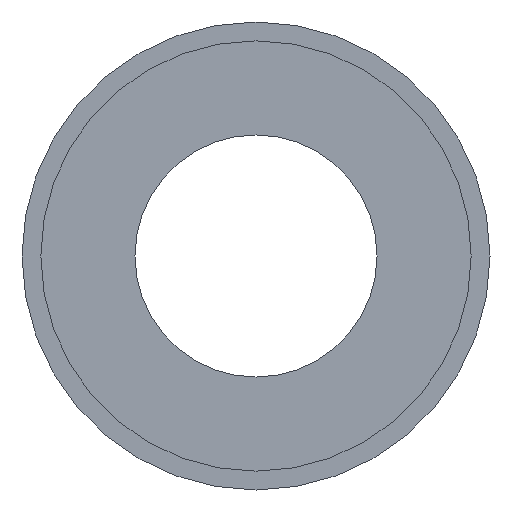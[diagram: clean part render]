
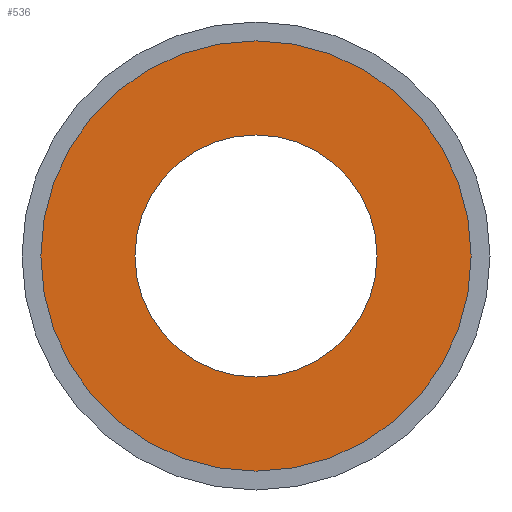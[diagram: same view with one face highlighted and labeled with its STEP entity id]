
A CAD part, front view. The second image highlights one B-rep face of the part: STEP entity #536.
In plain terms, the highlighted planar face has unit normal (0, -1, 0).
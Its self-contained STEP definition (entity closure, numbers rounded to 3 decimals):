
#65 = AXIS2_PLACEMENT_3D ( 'NONE', #1028, #2048, #3046 ) ;
#93 = CARTESIAN_POINT ( 'NONE',  ( 0., -16.5, -22.5 ) ) ;
#256 = CIRCLE ( 'NONE', #1644, 22.5 ) ;
#272 = CARTESIAN_POINT ( 'NONE',  ( 0., -16.5, 22.5 ) ) ;
#277 = ORIENTED_EDGE ( 'NONE', *, *, #2144, .T. ) ;
#455 = AXIS2_PLACEMENT_3D ( 'NONE', #2186, #1939, #938 ) ;
#480 = DIRECTION ( 'NONE',  ( 0., -1., 0. ) ) ;
#536 = ADVANCED_FACE ( 'NONE', ( #684, #924 ), #792, .F. ) ;
#684 = FACE_BOUND ( 'NONE', #3042, .T. ) ;
#711 = CARTESIAN_POINT ( 'NONE',  ( 0., -16.5, 0. ) ) ;
#792 = PLANE ( 'NONE',  #1462 ) ;
#924 = FACE_OUTER_BOUND ( 'NONE', #2231, .T. ) ;
#938 = DIRECTION ( 'NONE',  ( 0., 0., -1. ) ) ;
#1028 = CARTESIAN_POINT ( 'NONE',  ( 0., -16.5, 0. ) ) ;
#1205 = VERTEX_POINT ( 'NONE', #1804 ) ;
#1208 = DIRECTION ( 'NONE',  ( 0., -1., 0. ) ) ;
#1251 = ORIENTED_EDGE ( 'NONE', *, *, #2541, .F. ) ;
#1308 = DIRECTION ( 'NONE',  ( 0., 0., 1. ) ) ;
#1347 = ORIENTED_EDGE ( 'NONE', *, *, #2793, .F. ) ;
#1462 = AXIS2_PLACEMENT_3D ( 'NONE', #3060, #2566, #1308 ) ;
#1474 = CARTESIAN_POINT ( 'NONE',  ( 0., -16.5, 0. ) ) ;
#1644 = AXIS2_PLACEMENT_3D ( 'NONE', #711, #1208, #2490 ) ;
#1793 = CIRCLE ( 'NONE', #65, 40. ) ;
#1804 = CARTESIAN_POINT ( 'NONE',  ( 0., -16.5, -40. ) ) ;
#1882 = CIRCLE ( 'NONE', #455, 22.5 ) ;
#1939 = DIRECTION ( 'NONE',  ( 0., -1., 0. ) ) ;
#1940 = VERTEX_POINT ( 'NONE', #93 ) ;
#1950 = CARTESIAN_POINT ( 'NONE',  ( 0., -16.5, 40. ) ) ;
#2048 = DIRECTION ( 'NONE',  ( 0., -1., 0. ) ) ;
#2144 = EDGE_CURVE ( 'NONE', #2666, #1205, #2370, .T. ) ;
#2186 = CARTESIAN_POINT ( 'NONE',  ( 0., -16.5, 0. ) ) ;
#2188 = VERTEX_POINT ( 'NONE', #272 ) ;
#2231 = EDGE_LOOP ( 'NONE', ( #2899, #277 ) ) ;
#2370 = CIRCLE ( 'NONE', #2865, 40. ) ;
#2490 = DIRECTION ( 'NONE',  ( 0., 0., -1. ) ) ;
#2541 = EDGE_CURVE ( 'NONE', #1940, #2188, #1882, .T. ) ;
#2566 = DIRECTION ( 'NONE',  ( 0., 1., 0. ) ) ;
#2666 = VERTEX_POINT ( 'NONE', #1950 ) ;
#2720 = DIRECTION ( 'NONE',  ( 0., 0., -1. ) ) ;
#2793 = EDGE_CURVE ( 'NONE', #2188, #1940, #256, .T. ) ;
#2865 = AXIS2_PLACEMENT_3D ( 'NONE', #1474, #480, #2720 ) ;
#2899 = ORIENTED_EDGE ( 'NONE', *, *, #2932, .T. ) ;
#2932 = EDGE_CURVE ( 'NONE', #1205, #2666, #1793, .T. ) ;
#3042 = EDGE_LOOP ( 'NONE', ( #1251, #1347 ) ) ;
#3046 = DIRECTION ( 'NONE',  ( 0., 0., -1. ) ) ;
#3060 = CARTESIAN_POINT ( 'NONE',  ( 0., -16.5, 22.5 ) ) ;
